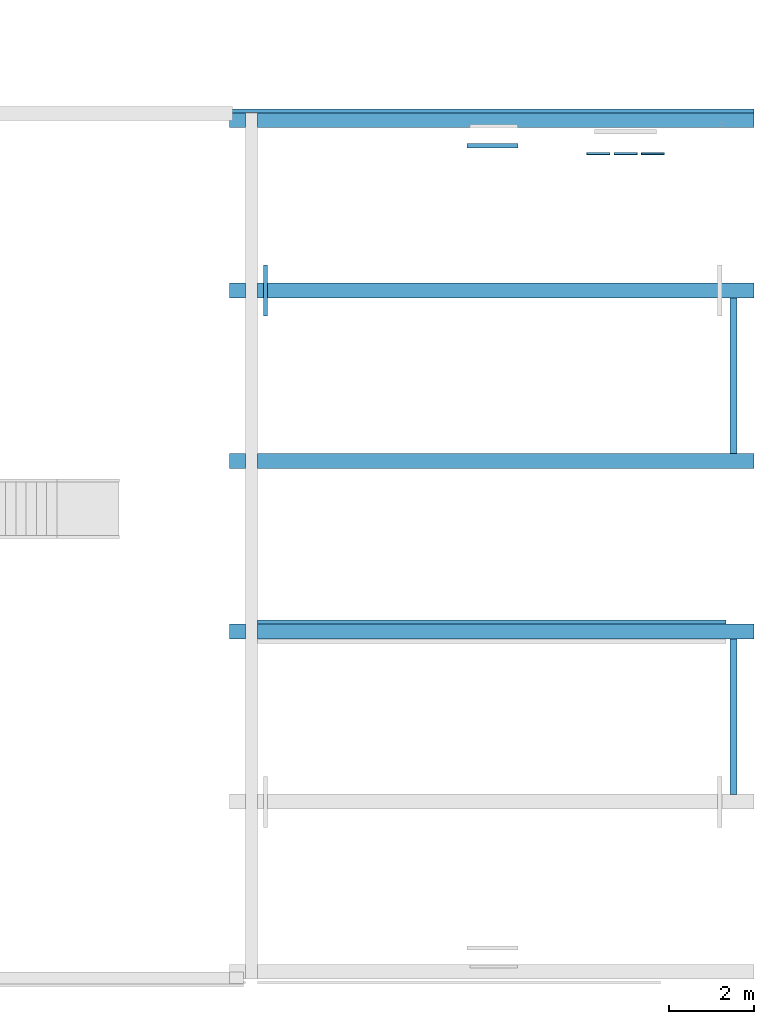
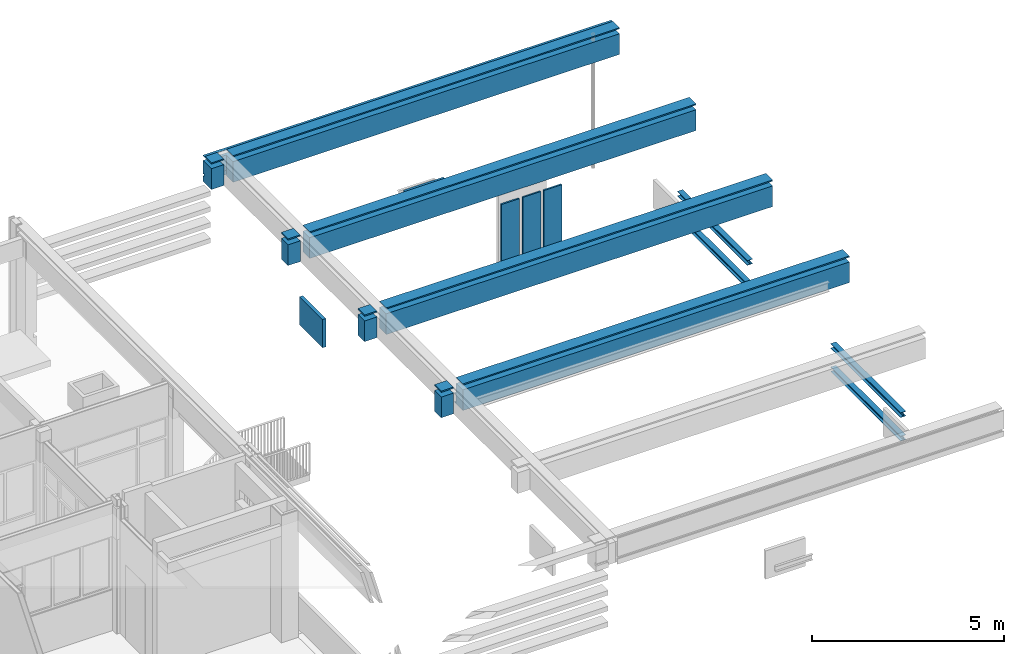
# One storey, part 12 of 54: 12 beams.
"""IFC2X3 building model written with IfcOpenShell, lengths in millimetres."""

from ifc_helpers import new_model, entity, si_unit, converted_unit, derived_unit, money_unit, direction, frame, origin_with_axes, place, context, subcontext, project, spatial, faceted_brep, material, type_object, element, save


model = new_model("IFC2X3")

# Units and contexts
model_context = context("Model", 3, precision=0.01, world=origin_with_axes(), true_north=direction((0.0, 1.0)))
body_context = subcontext(model_context, "Body", "Model", "MODEL_VIEW")
ifc_project = project(units=[si_unit("LENGTHUNIT", "METRE", prefix="MILLI"), si_unit("AREAUNIT", "SQUARE_METRE"), si_unit("VOLUMEUNIT", "CUBIC_METRE"), converted_unit("PLANEANGLEUNIT", "DEGREE", entity("IfcPlaneAngleMeasure", 0.0174532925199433), si_unit("PLANEANGLEUNIT", "RADIAN"), dimensions=[0, 0, 0, 0, 0, 0, 0]), money_unit("EUR"), converted_unit("TIMEUNIT", "Year", entity("IfcTimeMeasure", 31557600.0), si_unit("TIMEUNIT", "SECOND"), dimensions=[0, 0, 1, 0, 0, 0, 0]), si_unit("MASSUNIT", "GRAM", prefix="KILO"), si_unit("THERMODYNAMICTEMPERATUREUNIT", "DEGREE_CELSIUS"), si_unit("LUMINOUSINTENSITYUNIT", "LUMEN"), si_unit("ENERGYUNIT", "JOULE", prefix="MEGA"), derived_unit("THERMALCONDUCTANCEUNIT", [(si_unit("POWERUNIT", "WATT"), 1), (si_unit("LENGTHUNIT", "METRE"), -1), (si_unit("THERMODYNAMICTEMPERATUREUNIT", "KELVIN"), -1)]), derived_unit("SPECIFICHEATCAPACITYUNIT", [(si_unit("ENERGYUNIT", "JOULE"), 1), (si_unit("MASSUNIT", "GRAM", prefix="KILO"), -1), (si_unit("THERMODYNAMICTEMPERATUREUNIT", "KELVIN"), -1)]), derived_unit("MASSDENSITYUNIT", [(si_unit("MASSUNIT", "GRAM", prefix="KILO"), 1), (si_unit("VOLUMEUNIT", "CUBIC_METRE"), -1)])], contexts=[model_context])

# Site, building, storey
site_placement = place(None, origin_with_axes())
site = spatial("IfcSite", under=ifc_project, at=site_placement, Name="<site naam>", CompositionType="ELEMENT")
building_placement = place(site_placement, origin_with_axes())
building = spatial("IfcBuilding", under=site, at=building_placement, Name="<Naam gebouw>", CompositionType="ELEMENT")
storey_placement = place(building_placement, frame((0.0, 0.0, 8500.0), z_axis=(0.0, 0.0, 1.0), x_axis=(1.0, 0.0, 0.0)))
storey = spatial("IfcBuildingStorey", under=building, at=storey_placement, Name="02 2e verdieping", CompositionType="ELEMENT", Elevation=8500.0)

# Beams
ifc_material_1 = material(Name="beton_gewapend C")
beam_type_1 = type_object("IfcBeamType", Name="beton_gewapend C 350 x 850", PredefinedType="BEAM")
beam_1_placement = place(storey_placement, frame((57675.00000000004, 8000.000000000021, 4240.0), z_axis=(0.0, 0.0, 1.0), x_axis=(0.0, -1.0, 0.0)))
element("IfcBeam", 1, at=beam_1_placement, inside=storey, type_object=beam_type_1, material=ifc_material_1, Name="28_Balk_beton_gewapend", ObjectType="BEAM", context=body_context, shape_type="Brep", body=[
    faceted_brep([(-175.0000000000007, 0.0, -849.9999999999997), (-175.0000000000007, 0.0, -189.9999853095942), (-175.0000000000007, 370.0000000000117, -189.9999853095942), (-175.0000000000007, 370.0000000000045, -849.9999999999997), (174.9999999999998, 0.0, -849.9999999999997), (174.9999999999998, 0.0, -189.9999853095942), (174.9999999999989, 370.0000000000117, -189.9999853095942), (174.9999999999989, 370.0000000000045, -849.9999999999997)], [[[0, 1, 2, 3]], [[4, 5, 1, 0]], [[5, 6, 2, 1]], [[3, 2, 6, 7]], [[4, 0, 3, 7]], [[7, 6, 5, 4]]]),
    faceted_brep([(-175.0000000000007, 650.0000000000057, -849.9999999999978), (-175.0000000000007, 650.0000000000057, -189.9999853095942), (-175.0000000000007, 12299.99999999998, -189.9999853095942), (-175.0000000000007, 12299.99999999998, -849.9999999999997), (175.0000000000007, 650.0000000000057, -849.9999999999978), (175.0000000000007, 650.0000000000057, -189.9999853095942), (174.9999999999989, 12299.99999999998, -189.9999853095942), (174.9999999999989, 12299.99999999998, -849.9999999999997)], [[[0, 1, 2, 3]], [[4, 5, 1, 0]], [[5, 6, 2, 1]], [[3, 2, 6, 7]], [[3, 7, 4, 0]], [[7, 6, 5, 4]]]),
    faceted_brep([(174.9999999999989, 370.0000000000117, 0.0), (174.9999999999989, 370.0000000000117, -39.99998530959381), (-175.0000000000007, 370.0000000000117, -39.99998530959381), (-175.0000000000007, 370.0000000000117, 0.0), (174.9999999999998, 0.0, 0.0), (174.9999999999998, 0.0, -39.99998530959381), (-175.0000000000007, 0.0, -39.99998530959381), (-175.0000000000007, 0.0, 0.0)], [[[0, 1, 2, 3]], [[4, 5, 1, 0]], [[5, 6, 2, 1]], [[3, 2, 6, 7]], [[7, 4, 0, 3]], [[7, 6, 5, 4]]]),
    faceted_brep([(174.9999999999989, 12299.99999999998, 0.0), (174.9999999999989, 12299.99999999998, -39.99998530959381), (-175.0000000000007, 12299.99999999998, -39.99998530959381), (-175.0000000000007, 12299.99999999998, 0.0), (175.0000000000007, 650.0000000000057, 0.0), (175.0000000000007, 650.0000000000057, -39.99998530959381), (-175.0000000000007, 650.0000000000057, -39.99998530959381), (-175.0000000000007, 650.0000000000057, 0.0)], [[[0, 1, 2, 3]], [[4, 5, 1, 0]], [[5, 6, 2, 1]], [[3, 2, 6, 7]], [[0, 3, 7, 4]], [[7, 6, 5, 4]]]),
])
beam_2_placement = place(storey_placement, frame((57675.00000000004, 12000.00000000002, 4240.0), z_axis=(0.0, 0.0, 1.0), x_axis=(0.0, -1.0, 0.0)))
element("IfcBeam", 2, at=beam_2_placement, inside=storey, type_object=beam_type_1, material=ifc_material_1, Name="28_Balk_beton_gewapend", ObjectType="BEAM", context=body_context, shape_type="Brep", body=[
    faceted_brep([(-175.0000000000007, 0.0, -849.9999999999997), (-175.0000000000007, 0.0, -189.9999853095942), (-175.0000000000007, 370.0000000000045, -189.9999853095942), (-175.0000000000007, 370.0000000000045, -849.9999999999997), (175.0000000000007, 0.0, -849.9999999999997), (175.0000000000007, 0.0, -189.9999853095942), (175.0000000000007, 370.0000000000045, -189.9999853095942), (175.0000000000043, 370.0000000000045, -849.9999999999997)], [[[0, 1, 2, 3]], [[4, 5, 1, 0]], [[5, 6, 2, 1]], [[3, 2, 6, 7]], [[4, 0, 3, 7]], [[7, 6, 5, 4]]]),
    faceted_brep([(-175.0000000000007, 650.0000000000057, -849.9999999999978), (-175.0000000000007, 650.0000000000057, -189.9999853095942), (-175.0000000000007, 12299.99999999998, -189.9999853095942), (-175.0000000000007, 12299.99999999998, -849.9999999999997), (175.0000000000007, 650.0000000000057, -849.9999999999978), (175.0000000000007, 650.0000000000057, -189.9999853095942), (174.9999999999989, 12299.99999999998, -189.9999853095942), (174.9999999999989, 12299.99999999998, -849.9999999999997)], [[[0, 1, 2, 3]], [[4, 5, 1, 0]], [[5, 6, 2, 1]], [[3, 2, 6, 7]], [[3, 7, 4, 0]], [[7, 6, 5, 4]]]),
    faceted_brep([(175.0000000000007, 370.0000000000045, 0.0), (175.0000000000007, 370.0000000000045, -39.99998530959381), (-175.0000000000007, 370.0000000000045, -39.99998530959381), (-175.0000000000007, 370.0000000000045, 0.0), (175.0000000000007, 0.0, 0.0), (175.0000000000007, 0.0, -39.99998530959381), (-175.0000000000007, 0.0, -39.99998530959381), (-175.0000000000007, 0.0, 0.0)], [[[0, 1, 2, 3]], [[4, 5, 1, 0]], [[5, 6, 2, 1]], [[3, 2, 6, 7]], [[7, 4, 0, 3]], [[7, 6, 5, 4]]]),
    faceted_brep([(174.9999999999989, 12299.99999999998, 0.0), (174.9999999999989, 12299.99999999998, -39.99998530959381), (-175.0000000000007, 12299.99999999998, -39.99998530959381), (-175.0000000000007, 12299.99999999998, 0.0), (175.0000000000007, 650.0000000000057, 0.0), (175.0000000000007, 650.0000000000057, -39.99998530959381), (-175.0000000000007, 650.0000000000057, -39.99998530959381), (-175.0000000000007, 650.0000000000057, 0.0)], [[[0, 1, 2, 3]], [[4, 5, 1, 0]], [[5, 6, 2, 1]], [[3, 2, 6, 7]], [[0, 3, 7, 4]], [[7, 6, 5, 4]]]),
])
beam_3_placement = place(storey_placement, frame((57675.00000000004, 15999.99999999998, 4240.0), z_axis=(0.0, 0.0, 1.0), x_axis=(0.0, -1.0, 0.0)))
element("IfcBeam", 3, at=beam_3_placement, inside=storey, type_object=beam_type_1, material=ifc_material_1, Name="28_Balk_beton_gewapend", ObjectType="BEAM", context=body_context, shape_type="Brep", body=[
    faceted_brep([(-175.0000000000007, 0.0, -849.9999999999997), (-175.0000000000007, 0.0, -189.9999853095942), (-175.0000000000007, 370.0000000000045, -189.9999853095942), (-175.0000000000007, 370.0000000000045, -849.9999999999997), (175.0000000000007, 0.0, -849.9999999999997), (175.0000000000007, 0.0, -189.9999853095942), (175.0000000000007, 370.0000000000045, -189.9999853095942), (175.0000000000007, 370.0000000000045, -849.9999999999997)], [[[0, 1, 2, 3]], [[4, 5, 1, 0]], [[5, 6, 2, 1]], [[3, 2, 6, 7]], [[4, 0, 3, 7]], [[7, 6, 5, 4]]]),
    faceted_brep([(-175.0000000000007, 650.0000000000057, -849.9999999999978), (-175.0000000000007, 650.0000000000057, -189.9999853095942), (-175.0000000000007, 12299.99999999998, -189.9999853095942), (-175.0000000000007, 12299.99999999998, -849.9999999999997), (175.0000000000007, 650.0000000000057, -849.9999999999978), (175.0000000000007, 650.0000000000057, -189.9999853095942), (174.9999999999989, 12299.99999999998, -189.9999853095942), (174.9999999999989, 12299.99999999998, -849.9999999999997)], [[[0, 1, 2, 3]], [[4, 5, 1, 0]], [[5, 6, 2, 1]], [[3, 2, 6, 7]], [[3, 7, 4, 0]], [[7, 6, 5, 4]]]),
    faceted_brep([(175.0000000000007, 370.0000000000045, 0.0), (175.0000000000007, 370.0000000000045, -39.99998530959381), (-175.0000000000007, 370.0000000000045, -39.99998530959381), (-175.0000000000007, 370.0000000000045, 0.0), (175.0000000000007, 0.0, 0.0), (175.0000000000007, 0.0, -39.99998530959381), (-175.0000000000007, 0.0, -39.99998530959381), (-175.0000000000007, 0.0, 0.0)], [[[0, 1, 2, 3]], [[4, 5, 1, 0]], [[5, 6, 2, 1]], [[3, 2, 6, 7]], [[7, 4, 0, 3]], [[7, 6, 5, 4]]]),
    faceted_brep([(174.9999999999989, 12299.99999999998, 0.0), (174.9999999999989, 12299.99999999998, -39.99998530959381), (-175.0000000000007, 12299.99999999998, -39.99998530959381), (-175.0000000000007, 12299.99999999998, 0.0), (175.0000000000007, 650.0000000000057, 0.0), (175.0000000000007, 650.0000000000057, -39.99998530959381), (-175.0000000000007, 650.0000000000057, -39.99998530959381), (-175.0000000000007, 650.0000000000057, 0.0)], [[[0, 1, 2, 3]], [[4, 5, 1, 0]], [[5, 6, 2, 1]], [[3, 2, 6, 7]], [[0, 3, 7, 4]], [[7, 6, 5, 4]]]),
])
beam_type_2 = type_object("IfcBeamType", Name="beton_gewapend C 440 x 850", PredefinedType="BEAM")
beam_4_placement = place(storey_placement, frame((57675.00000000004, 19824.99999999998, 4240.0), z_axis=(0.0, 0.0, 1.0), x_axis=(0.0, -1.0, 0.0)))
element("IfcBeam", 4, at=beam_4_placement, inside=storey, type_object=beam_type_2, material=ifc_material_1, Name="28_Balk_beton_gewapend", ObjectType="BEAM", context=body_context, shape_type="Brep", body=[
    faceted_brep([(-440.0000042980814, 0.0, -610.0000385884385), (-440.0000000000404, 0.0, -189.9999853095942), (-440.0000000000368, 12299.99999999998, -189.9999853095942), (-440.0000042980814, 12299.99999999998, -610.0000385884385), (0.0, 0.0, -849.9999999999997), (0.0, 0.0, -189.9999853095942), (-410.0000019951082, 0.0, -610.0000385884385), (-410.0000019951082, 0.0, -580.0000280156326), (-379.999999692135, 0.0, -580.0000280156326), (-379.999999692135, 0.0, -679.999937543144), (-440.0000042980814, 0.0, -679.999937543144), (-440.0000000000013, 0.0, -849.9999999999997), (0.0, 650.0000000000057, -189.9999853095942), (0.0, 12299.99999999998, -189.9999853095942), (0.0, 370.0000000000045, -189.9999853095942), (-350.0000000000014, 370.0000000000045, -189.9999853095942), (-350.0000000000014, 650.0000000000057, -189.9999853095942), (0.0, 12299.99999999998, -849.9999999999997), (-335.0000000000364, 12299.99999999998, -849.9999999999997), (-335.0000000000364, 12299.99999999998, -679.9999960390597), (-379.999999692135, 12299.99999999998, -679.9999960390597), (-379.999999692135, 12299.99999999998, -580.0000280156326), (-410.0000019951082, 12299.99999999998, -580.0000280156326), (-410.0000019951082, 12299.99999999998, -610.0000385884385), (0.0, 370.0000000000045, -849.9999999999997), (-379.999999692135, 324.9999999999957, -679.9999960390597), (-400.0000000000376, 324.9999999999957, -679.9999960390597), (-400.0000000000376, 12299.99999999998, -679.9999960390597), (-440.0000042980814, 12299.99999999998, -679.999937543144), (-440.0000000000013, 12299.99999999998, -849.9999999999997), (-400.0000000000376, 12299.99999999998, -849.9999999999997), (-400.0000000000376, 324.9999999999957, -849.9999999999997), (-335.0000000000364, 324.9999999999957, -849.9999999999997), (-335.0000000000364, 370.0000000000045, -849.9999999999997), (0.0, 650.0000000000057, -849.9999999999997), (-350.0000000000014, 370.0000000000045, -679.9999960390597), (-335.0000000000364, 370.0000000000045, -679.9999960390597), (-350.0000000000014, 650.0000000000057, -679.9999960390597), (-335.0000000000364, 650.0000000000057, -679.9999960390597), (-335.0000000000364, 650.0000000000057, -849.9999999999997), (-335.0000000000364, 324.9999999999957, -679.9999960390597)], [[[0, 1, 2, 3]], [[4, 5, 1, 0, 6, 7, 8, 9, 10, 11]], [[12, 13, 2, 1, 5, 14, 15, 16]], [[3, 2, 13, 17, 18, 19, 20, 21, 22, 23]], [[3, 23, 6, 0]], [[24, 14, 5, 4]], [[22, 7, 6, 23]], [[21, 8, 7, 22]], [[8, 21, 20, 25, 9]], [[10, 9, 25, 26, 27, 28]], [[28, 29, 11, 10]], [[30, 31, 32, 33, 24, 4, 11, 29]], [[17, 13, 12, 34]], [[35, 15, 14, 24, 33, 36]], [[37, 16, 15, 35]], [[34, 12, 16, 37, 38, 39]], [[17, 34, 39, 18]], [[39, 38, 19, 18]], [[36, 40, 25, 20, 19, 38, 37, 35]], [[32, 31, 26, 25, 40]], [[26, 31, 30, 27]], [[29, 28, 27, 30]], [[32, 40, 36, 33]]]),
    faceted_brep([(0.0, 12299.99999999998, 0.0), (0.0, 12299.99999999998, -39.99998530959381), (-440.0000000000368, 12299.99999999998, -39.99998530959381), (-440.0000042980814, 12299.99999999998, -20.00000012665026), (-339.9999928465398, 12299.99999999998, -20.00000012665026), (-339.9999928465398, 12299.99999999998, 0.0), (0.0, 650.0000000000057, 0.0), (0.0, 650.0000000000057, -39.99998530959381), (0.0, 0.0, -39.99998530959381), (-440.0000000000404, 0.0, -39.99998530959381), (-350.0000000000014, 650.0000000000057, -39.99998530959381), (-350.0000000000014, 370.0000000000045, -39.99998530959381), (0.0, 370.0000000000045, -39.99998530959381), (-440.0000042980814, 0.0, -20.00000012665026), (-350.0000000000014, 370.0000000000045, -20.00000012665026), (-350.0000000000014, 650.0000000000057, -20.00000012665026), (-339.9999928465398, 650.0000000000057, -20.00000012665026), (-339.9999928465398, 0.0, -20.00000012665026), (-339.9999928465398, 370.0000000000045, -20.00000012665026), (-339.9999928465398, 650.0000000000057, 0.0), (0.0, 0.0, 0.0), (-339.9999928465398, 0.0, 0.0), (0.0, 370.0000000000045, 0.0), (-339.9999928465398, 370.0000000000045, 0.0)], [[[0, 1, 2, 3, 4, 5]], [[6, 7, 1, 0]], [[8, 9, 2, 1, 7, 10, 11, 12]], [[3, 2, 9, 13]], [[14, 15, 16, 4, 3, 13, 17, 18]], [[5, 4, 16, 19]], [[19, 6, 0, 5]], [[15, 10, 7, 6, 19, 16]], [[13, 9, 8, 20, 21, 17]], [[14, 11, 10, 15]], [[22, 12, 11, 14, 18, 23]], [[20, 8, 12, 22]], [[23, 18, 17, 21]], [[21, 20, 22, 23]]]),
])
ifc_material_2 = material(Name="staal")
beam_type_3 = type_object("IfcBeamType", Name="Profiel UPN algemeen 100 x 300", PredefinedType="BEAM")
beam_5_placement = place(storey_placement, frame((58325.00000000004, 8175.000000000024, 3690.000201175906), z_axis=(0.0, 0.0, 1.0), x_axis=(0.0, -1.0, 0.0)))
element("IfcBeam", 5, at=beam_5_placement, inside=storey, type_object=beam_type_3, material=ifc_material_2, Name="28_Balk_Profiel", ObjectType="BEAM", context=body_context, shape_type="Brep", body=[
    faceted_brep([(-100.0000000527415, 0.0, -16.00000000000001), (-100.0000000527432, 10999.99999999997, -16.00000000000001), (-10.00000000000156, 10999.99999999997, -16.00000000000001), (-9.999999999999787, 0.0, -16.00000000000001), (-100.0000000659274, 0.0, 0.0), (-100.0000000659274, 10999.99999999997, 0.0), (0.0, 10999.99999999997, 0.0), (0.0, 10999.99999999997, -300.000201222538), (-100.0000000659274, 10999.99999999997, -300.000201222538), (-100.0000000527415, 10999.99999999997, -284.0002011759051), (-9.999999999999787, 10999.99999999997, -284.0002011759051), (-9.999999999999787, 0.0, -284.0002011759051), (-100.0000000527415, 0.0, -284.0002011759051), (-100.0000000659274, 0.0, -300.000201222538), (0.0, 0.0, -300.000201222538), (0.0, 0.0, 0.0)], [[[0, 1, 2, 3]], [[4, 5, 1, 0]], [[2, 1, 5, 6, 7, 8, 9, 10]], [[3, 2, 10, 11]], [[4, 0, 3, 11, 12, 13, 14, 15]], [[15, 6, 5, 4]], [[14, 7, 6, 15]], [[13, 8, 7, 14]], [[12, 9, 8, 13]], [[11, 10, 9, 12]]]),
])
ifc_material_3 = material(Name="ALG - ALGEMEEN")
beam_type_4 = type_object("IfcBeamType", Name="ALG - ALGEMEEN 100 x 900", PredefinedType="BEAM")
beam_6_placement = place(storey_placement, frame((58467.4340863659, 16599.98244832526, 1649.999788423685), z_axis=(0.0, 0.0, 1.0), x_axis=(-1.0, 0.0, 0.0)))
element("IfcBeam", 6, at=beam_6_placement, inside=storey, type_object=beam_type_4, material=ifc_material_3, Name="77_Balk_ALG", ObjectType="BEAM", context=body_context, shape_type="Brep", body=[
    faceted_brep([(0.0, 0.0, 0.0), (0.0, 1200.000000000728, 0.0), (-100.0000020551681, 1200.000000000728, 0.0), (-100.0000020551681, 0.0, 0.0), (0.0, 0.0, -899.9995791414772), (0.0, 1200.000000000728, -899.9995791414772), (-100.0000020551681, 1200.000000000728, -899.9995791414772), (-100.0000020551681, 0.0, -899.9995791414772)], [[[0, 1, 2, 3]], [[4, 5, 1, 0]], [[2, 1, 5, 6]], [[3, 2, 6, 7]], [[4, 0, 3, 7]], [[7, 6, 5, 4]]]),
])
beam_7_placement = place(storey_placement, frame((63246.21701635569, 19447.41998285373, 1649.999791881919), z_axis=(0.0, 0.0, 1.0), x_axis=(0.0, -1.0, 0.0)))
element("IfcBeam", 7, at=beam_7_placement, inside=storey, type_object=beam_type_4, material=ifc_material_3, Name="77_Balk_ALG", ObjectType="BEAM", context=body_context, shape_type="Brep", body=[
    faceted_brep([(0.0, 0.0, -899.999579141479), (0.0, 1200.000000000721, -899.999579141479), (100.0000020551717, 1200.000000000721, -899.999579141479), (100.0000020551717, 0.0, -899.999579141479), (0.0, 0.0, 0.0), (0.0, 1200.000000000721, 0.0), (100.0000020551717, 1200.000000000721, 0.0), (100.0000020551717, 0.0, 0.0)], [[[0, 1, 2, 3]], [[4, 5, 1, 0]], [[2, 1, 5, 6]], [[3, 2, 6, 7]], [[4, 0, 3, 7]], [[7, 6, 5, 4]]]),
])
ifc_material_4 = material(Name="staal C")
beam_type_5 = type_object("IfcBeamType", Name="Profiel H algemeen 160 x 152", PredefinedType="BEAM")
for number, where, z_axis, x_axis, name in (
    (8, (69495.00020540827, 15824.99999999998, 1573.999432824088), (0.0, 0.0, 1.0), (-1.0, 0.0, 0.0), "28_Balk_Profiel"),
    (9, (69495.00020540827, 15824.99999999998, 826.0005671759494), (0.0, 0.0, 1.0), (-1.0, 0.0, 0.0), "28_Balk_Profiel"),
    (10, (69495.00020540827, 7824.999999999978, 1573.999432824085), (0.0, 0.0, 1.0), (-1.0, 0.0, 0.0), "28_Balk_Profiel"),
    (11, (69495.00020540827, 7824.999999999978, 826.0005671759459), (0.0, 0.0, 1.0), (-1.0, 0.0, 0.0), "28_Balk_Profiel"),
):
    element("IfcBeam", number, at=place(storey_placement, frame(where, z_axis=z_axis, x_axis=x_axis)), inside=storey, type_object=beam_type_5, material=ifc_material_4, Name=name, ObjectType="BEAM", context=body_context, shape_type="Brep", body=[
        faceted_brep([(-80.00007858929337, 0.0, -76.00042671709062), (-80.00007858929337, 3649.999999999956, -76.00042671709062), (80.00007858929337, 3649.999999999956, -76.00042671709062), (80.00007858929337, 0.0, -76.00042671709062), (-80.00006287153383, 0.0, -66.99970523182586), (-80.00006287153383, 3649.999999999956, -66.99970523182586), (-3.000000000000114, 3649.999999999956, -66.99970523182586), (-3.000000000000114, 3649.999999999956, 66.99970523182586), (-80.00006287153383, 3649.999999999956, 66.99970523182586), (-80.00007858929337, 3649.999999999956, 76.00042671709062), (80.00007858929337, 3649.999999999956, 76.00042671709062), (80.00006287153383, 3649.999999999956, 66.99970523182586), (3.000000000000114, 3649.999999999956, 66.99970523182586), (3.000000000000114, 3649.999999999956, -66.99970523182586), (80.00006287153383, 3649.999999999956, -66.99970523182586), (80.00006287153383, 0.0, -66.99970523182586), (3.000000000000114, 0.0, -66.99970523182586), (3.000000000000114, 0.0, 66.99970523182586), (80.00006287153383, 0.0, 66.99970523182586), (80.00007858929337, 0.0, 76.00042671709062), (-80.00007858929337, 0.0, 76.00042671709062), (-80.00006287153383, 0.0, 66.99970523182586), (-3.000000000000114, 0.0, 66.99970523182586), (-3.000000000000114, 0.0, -66.99970523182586)], [[[0, 1, 2, 3]], [[4, 5, 1, 0]], [[2, 1, 5, 6, 7, 8, 9, 10, 11, 12, 13, 14]], [[3, 2, 14, 15]], [[4, 0, 3, 15, 16, 17, 18, 19, 20, 21, 22, 23]], [[23, 6, 5, 4]], [[22, 7, 6, 23]], [[21, 8, 7, 22]], [[20, 9, 8, 21]], [[19, 10, 9, 20]], [[18, 11, 10, 19]], [[17, 12, 11, 18]], [[16, 13, 12, 17]], [[15, 14, 13, 16]]]),
    ])
beam_type_6 = type_object("IfcBeamType", Name="ALG - ALGEMEEN 50 x 2518", PredefinedType="BEAM")
beam_8_placement = place(storey_placement, frame((66056.21701635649, 19214.99115621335, 362.5000000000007), z_axis=(0.0, 0.0, 1.0), x_axis=(0.0, -1.0, 0.0)))
element("IfcBeam", 12, at=beam_8_placement, inside=storey, type_object=beam_type_6, material=ifc_material_3, Name="77_Balk_ALG", ObjectType="BEAM", context=body_context, shape_type="Brep", body=[
    faceted_brep([(24.99999999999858, 0.0, 0.0), (24.99999999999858, 539.9999736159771, 0.0), (-24.99999999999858, 539.9999736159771, 0.0), (-24.99999999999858, 0.0, 0.0), (24.99999999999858, 0.0, -2514.500000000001), (24.99999999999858, 539.9999736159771, -2514.500000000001), (-24.99999999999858, 539.9999736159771, -2514.500000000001), (-24.99999999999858, 0.0, -2514.500000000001)], [[[0, 1, 2, 3]], [[4, 5, 1, 0]], [[5, 6, 2, 1]], [[3, 2, 6, 7]], [[0, 3, 7, 4]], [[7, 6, 5, 4]]]),
    faceted_brep([(24.99999999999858, 639.9999999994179, 0.0), (24.99999999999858, 1179.999973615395, 0.0), (-24.99999999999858, 1179.999973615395, 0.0), (-24.99999999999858, 639.9999999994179, 0.0), (24.99999999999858, 639.9999999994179, -2514.500000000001), (24.99999999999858, 1179.999973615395, -2514.500000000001), (-24.99999999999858, 1179.999973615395, -2514.500000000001), (-24.99999999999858, 639.9999999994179, -2514.500000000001)], [[[0, 1, 2, 3]], [[4, 5, 1, 0]], [[5, 6, 2, 1]], [[3, 2, 6, 7]], [[4, 0, 3, 7]], [[7, 6, 5, 4]]]),
    faceted_brep([(-24.99999999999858, 1819.999999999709, -2514.500000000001), (-24.99999999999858, 1279.999999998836, -2514.500000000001), (-24.99999999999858, 1279.999999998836, 0.0), (-24.99999999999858, 1819.999999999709, 0.0), (24.99999999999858, 1819.999999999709, -2514.500000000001), (24.99999999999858, 1279.999999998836, -2514.500000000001), (24.99999999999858, 1279.999999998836, 0.0), (24.99999999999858, 1819.999999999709, 0.0)], [[[0, 1, 2, 3]], [[4, 5, 1, 0]], [[5, 6, 2, 1]], [[3, 2, 6, 7]], [[3, 7, 4, 0]], [[7, 6, 5, 4]]]),
])

save(model, "model.ifc")
